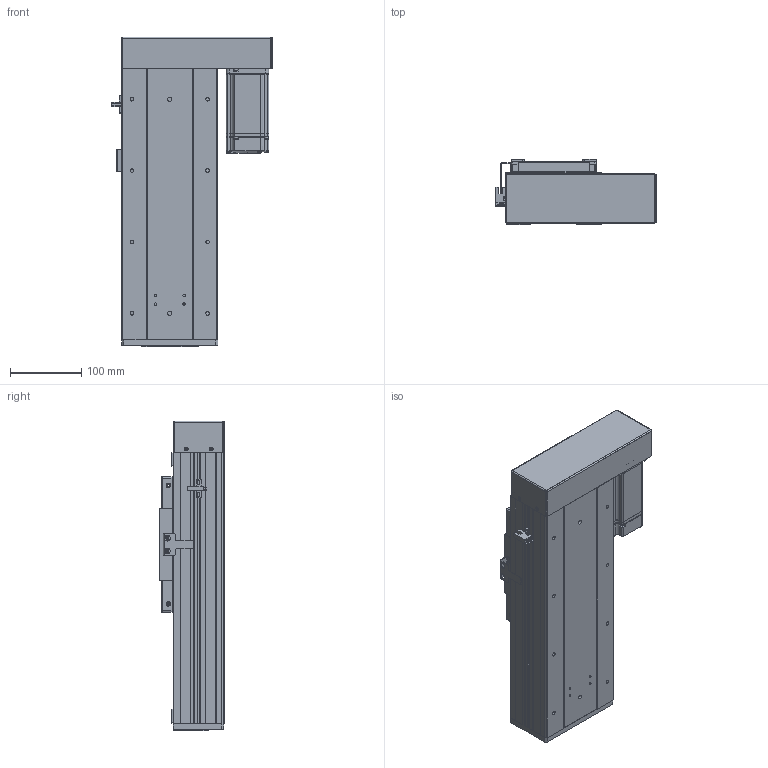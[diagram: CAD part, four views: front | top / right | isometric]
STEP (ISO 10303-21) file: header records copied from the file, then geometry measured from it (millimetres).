
FILE_DESCRIPTION (( 'STEP AP203' ), '1' );
FILE_NAME ('RY140F-L2020-300-RK.SLDASM_100.step', '2021-03-02T08:50:03', ( '盈信电脑' ), ( '东莞市道滘镇水果街19号' ), 'SwSTEP 2.0', 'SolidWorks 2012', '' );
FILE_SCHEMA (( 'CONFIG_CONTROL_DESIGN' ));
Products named in the file (19): RY140F-酘衵殏萇儂欶(400W); RY140F-L2020-300-RK.SLDASM_100; RY140F-詩湍揤え; RY140F-左右折电机安装板(400W M5); 侐源滅袉蝶; RY140F-转折折电机座（7001）; 覜茼ん672; RY140F-672覜茼んえ; 侂狟400W侜督萇儂; RY100F-詩湍揤踡謫; RY140F-后盖板(铝件）; 15; RY140F-直连型材铝滑块(16丝杆); RY140F-滅鳥奻裔; RY140F-直连型材铝滑块连接座; RY140F-詩湍幗謫粣; RY140F-300-RK蛌殏詩湍_100; RY140F-300-RK倰第奻裔啣_100; RY140F-300-RK倰第菁釱_100
Assembly tree (23 placements, depth 3):
  RY140F-L2020-300-RK.SLDASM_100
    RY140F-300-RK倰第菁釱_100
    RY140F-300-RK倰第奻裔啣_100  x2
    RY140F-300-RK蛌殏詩湍_100
    RY140F-直连型材铝滑块连接座
    RY140F-滅鳥奻裔
    RY140F-詩湍幗謫粣
    RY100F-詩湍揤踡謫
    RY140F-直连型材铝滑块(16丝杆)
    RY140F-后盖板(铝件）
    侂狟400W侜督萇儂
      15
    覜茼ん672
    RY140F-672覜茼んえ
    RY140F-詩湍揤え  x2
    侐源滅袉蝶  x4
    RY140F-转折折电机座（7001）
    RY140F-左右折电机安装板(400W M5)
    RY140F-酘衵殏萇儂欶(400W)
Bounding box: 224.7 x 91 x 434 mm (x, y, z)
Volume: 2321066.9 mm3; surface area: 811484.2 mm2
Topology: 22 solids, 22 shells, 1949 faces, 5325 edges, 3398 vertices
Faces by surface type: cylinder 936, plane 789, cone 194, bspline 26, torus 4
Entity records: 61779 total; most frequent: CARTESIAN_POINT 13183, DIRECTION 9822, ORIENTED_EDGE 9602, EDGE_CURVE 4801, AXIS2_PLACEMENT_3D 3501, VERTEX_POINT 3138, VECTOR 2820, LINE 2820
